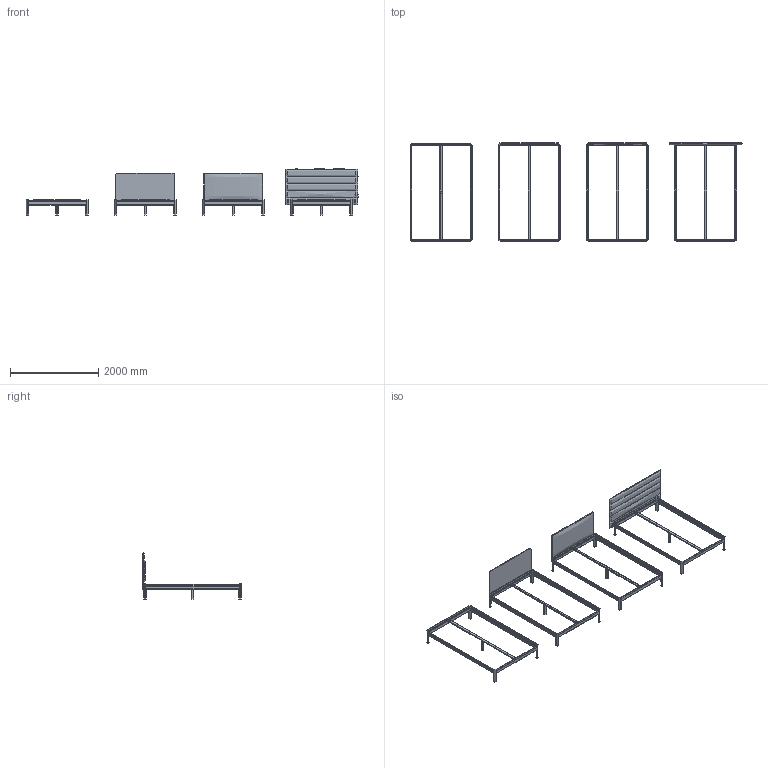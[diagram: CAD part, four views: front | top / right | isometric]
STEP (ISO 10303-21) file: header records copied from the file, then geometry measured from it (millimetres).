
FILE_DESCRIPTION(/* description */ (''),/* implementation_level */ '2;1');
FILE_NAME(/* name */ 'Heia_140x220',/* time_stamp */ '2025-10-15T11:14:23+02:00',/* author */ (''),/* organization */ (''),/* preprocessor_version */ 'ST-DEVELOPER v16.5',/* originating_system */ 'Rhino 7.38',/* authorisation */ '');
FILE_SCHEMA (('CONFIG_CONTROL_DESIGN'));
Length unit declared in the file: millimetre
Products named in the file (1): Document
Bounding box: 7532.91 x 2233.49 x 1050.68 mm (x, y, z)
Volume: 148039429.6 mm3; surface area: 19094028.9 mm2
Topology: 62 solids, 63 shells, 1706 faces, 4160 edges, 2566 vertices
Faces by surface type: plane 712, cylinder 672, bspline 322
Entity records: 58171 total; most frequent: CARTESIAN_POINT 31707, ORIENTED_EDGE 8294, EDGE_CURVE 4152, VERTEX_POINT 2566, B_SPLINE_CURVE_WITH_KNOTS 1829, EDGE_LOOP 1746, ADVANCED_FACE 1706, FACE_OUTER_BOUND 1706
